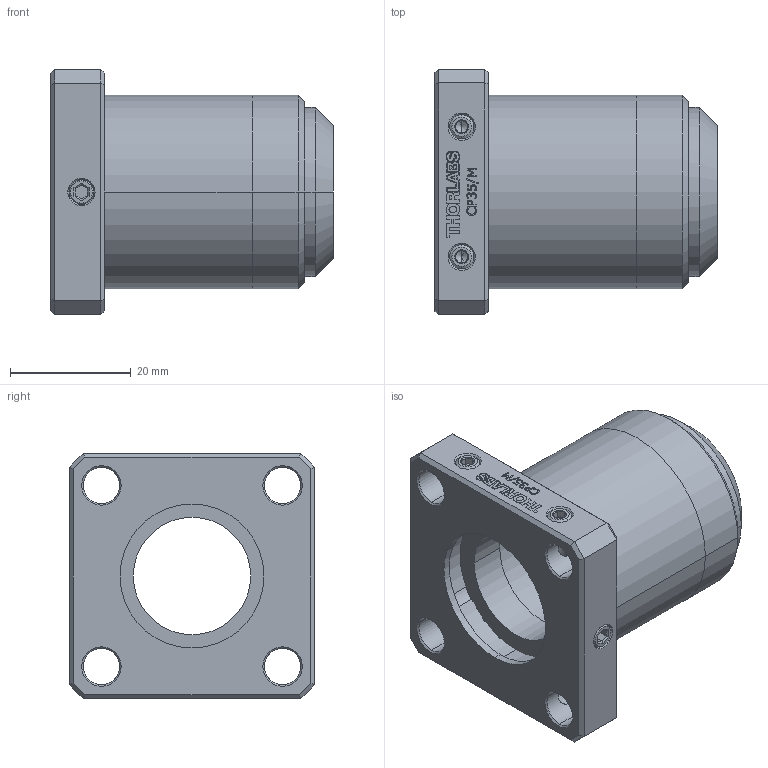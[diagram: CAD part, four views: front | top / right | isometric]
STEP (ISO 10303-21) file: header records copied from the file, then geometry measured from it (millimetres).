
FILE_DESCRIPTION (( 'STEP AP214' ), '1' );
FILE_NAME ('Baugruppe_Thorlabs_Objektiv.STEP', '2022-10-28T09:44:44', ( '' ), ( '' ), 'SwSTEP 2.0', 'SolidWorks 2022', '' );
FILE_SCHEMA (( 'AUTOMOTIVE_DESIGN' ));
Length unit declared in the file: millimetre
Products named in the file (3): mech2x; CP35_M-Step; Baugruppe_Thorlabs_Objektiv
Assembly tree (2 placements, depth 2):
  Baugruppe_Thorlabs_Objektiv
    mech2x
    CP35_M-Step
Bounding box: 46.77 x 40.64 x 40.64 mm (x, y, z)
Volume: 23690.8 mm3; surface area: 19408.6 mm2
Topology: 12 solids, 12 shells, 579 faces, 1383 edges, 856 vertices
Faces by surface type: plane 270, bspline 109, cone 108, cylinder 92
Entity records: 19289 total; most frequent: CARTESIAN_POINT 6346, ORIENTED_EDGE 2726, DIRECTION 2347, EDGE_CURVE 1363, VERTEX_POINT 856, LINE 813, VECTOR 813, AXIS2_PLACEMENT_3D 767
